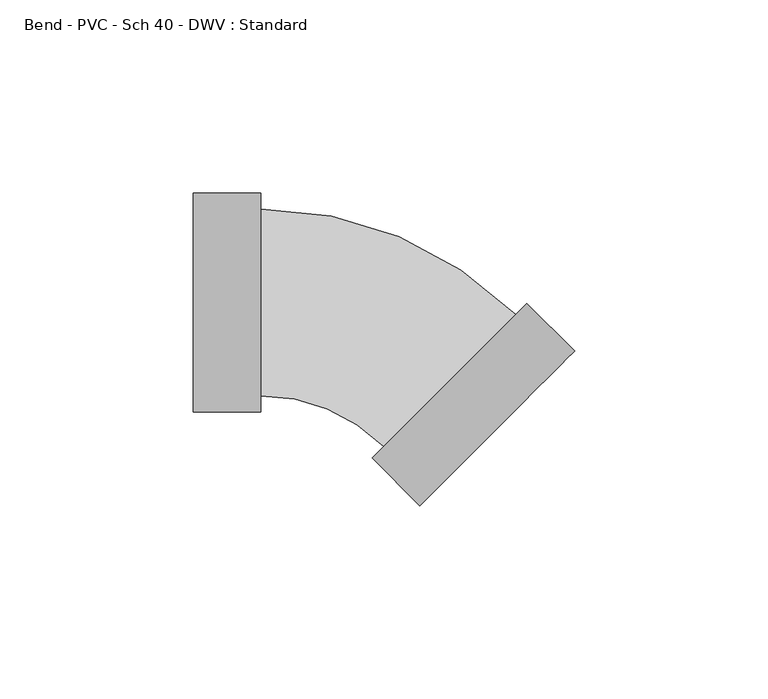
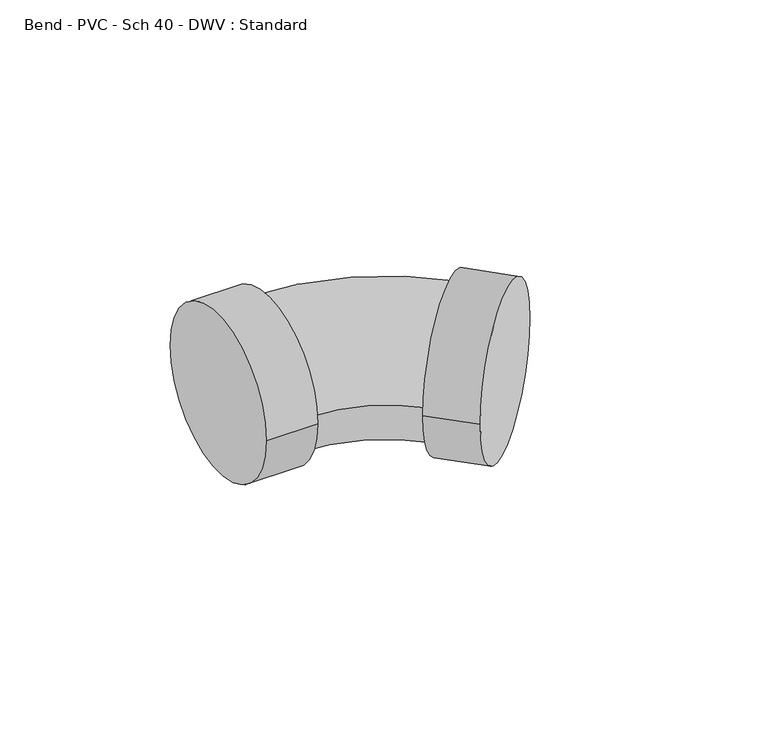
"""IFC4 building model written with IfcOpenShell, lengths in millimetres: pipe fitting geometry, Bend - PVC - Sch 40 - DWV : Standard."""

from ifc_helpers import new_model, si_unit, point, frame, origin, place, context, project, spatial, circle_curve, ellipse_curve, trimmed, source, transform, mapped, element, save
from ifc_brep_helpers import plane_surface, cylinder_surface, revolved_surface, advanced_brep


def bend_pvc_sch_40_dwv_standard_c28c2be1(model_context):
    return source(origin(), model_context, "Body", "AdvancedBrep", [
        advanced_brep(
        [(-46.0248, 28.2829, 0.0), (-46.0248, -28.2829, 0.0), (-28.575, 28.2829, 0.0), (-28.575, -28.2829, 0.0), (-28.575, 24.13, 0.0), (-28.575, -24.13, 0.0), (3.1430896, -37.2680629, 0.0), (37.2680629, -3.1430896, 0.0), (40.2046067, -0.2065459, 0.0), (0.2065459, -40.2046067, 0.0), (52.5434786, -12.5454178, 0.0), (12.5454178, -52.5434786, 0.0)],
        [
            (0, 1, circle_curve(frame((-46.0248, 0.0, 0.0), z_axis=(-1.0, 0.0, 0.0), x_axis=(0.0, -1.0, 0.0)), 28.2829)),
            (1, 0, circle_curve(frame((-46.0248, 0.0, 0.0), z_axis=(-1.0, 0.0, 0.0), x_axis=(0.0, -1.0, 0.0)), 28.2829)),
            (2, 3, circle_curve(frame((-28.575, 0.0, 0.0), z_axis=(1.0, 0.0, 0.0), x_axis=(0.0, -1.0, 0.0)), 28.2829)),
            (3, 2, circle_curve(frame((-28.575, 0.0, 0.0), z_axis=(1.0, 0.0, 0.0), x_axis=(0.0, -1.0, 0.0)), 28.2829)),
            (4, 5, circle_curve(frame((-28.575, 0.0, 0.0), z_axis=(-1.0, 0.0, 0.0), x_axis=(0.0, -1.0, 0.0)), 24.13)),
            (5, 4, circle_curve(frame((-28.575, 0.0, 0.0), z_axis=(-1.0, 0.0, 0.0), x_axis=(0.0, -1.0, 0.0)), 24.13)),
            (1, 3),
            (2, 0),
            (6, 7, circle_curve(frame((20.2055763, -20.2055763, 0.0), z_axis=(-0.7071067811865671, 0.7071067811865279, 0.0), x_axis=(-0.7071067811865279, -0.7071067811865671, 0.0)), 24.13)),
            (7, 4, circle_curve(frame((-28.575, -68.9861525, 0.0), z_axis=(0.0, 0.0, 1.0), x_axis=(0.0, 1.0, 0.0)), 93.1161525)),
            (5, 6, circle_curve(frame((-28.575, -68.9861525, 0.0), z_axis=(0.0, 0.0, -1.0), x_axis=(0.0, 1.0, 0.0)), 44.8561525)),
            (7, 6, circle_curve(frame((20.2055763, -20.2055763, 0.0), z_axis=(-0.7071067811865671, 0.7071067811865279, 0.0), x_axis=(-0.7071067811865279, -0.7071067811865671, 0.0)), 24.13)),
            (8, 9, circle_curve(frame((20.2055763, -20.2055763, 0.0), z_axis=(-0.7071067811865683, 0.7071067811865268, 0.0), x_axis=(-0.7071067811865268, -0.7071067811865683, 0.0)), 28.2829)),
            (9, 8, circle_curve(frame((20.2055763, -20.2055763, 0.0), z_axis=(-0.7071067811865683, 0.7071067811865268, 0.0), x_axis=(-0.7071067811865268, -0.7071067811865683, 0.0)), 28.2829)),
            (10, 11, circle_curve(frame((32.5444482, -32.5444482, 0.0), z_axis=(0.7071067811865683, -0.7071067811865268, 0.0), x_axis=(-0.7071067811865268, -0.7071067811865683, 0.0)), 28.2829)),
            (11, 10, circle_curve(frame((32.5444482, -32.5444482, 0.0), z_axis=(0.7071067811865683, -0.7071067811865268, 0.0), x_axis=(-0.7071067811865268, -0.7071067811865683, 0.0)), 28.2829)),
            (9, 11),
            (10, 8),
        ],
        [
            plane_surface(frame((-46.0248, 0.0, 0.0), z_axis=(-1.0, 0.0, 0.0), x_axis=(0.0, 0.0, 1.0))),
            plane_surface(frame((-28.575, 0.0, 0.0), z_axis=(1.0, 0.0, 0.0), x_axis=(0.0, 0.0, 1.0))),
            cylinder_surface(frame((-46.0248, 0.0, 0.0), z_axis=(-1.0, 0.0, 0.0), x_axis=(0.0, -1.0, 0.0)), 28.2829),
            revolved_surface(trimmed(ellipse_curve(frame((-28.575, 0.0, 0.0), z_axis=(1.0, 0.0, 0.0), x_axis=(0.0, -1.0, 0.0)), 24.13, 24.13), [point((-28.575, 24.13, 0.0))], [point((-28.575, -24.13, 0.0))], True, "CARTESIAN"), (-28.575, -68.9861525, 0.0), (0.0, 0.0, 1.0)),
            revolved_surface(trimmed(ellipse_curve(frame((-28.575, 0.0, 0.0), z_axis=(1.0, 0.0, 0.0), x_axis=(0.0, -1.0, 0.0)), 24.13, 24.13), [point((-28.575, -24.13, 0.0))], [point((-28.575, 24.13, 0.0))], True, "CARTESIAN"), (-28.575, -68.9861525, 0.0), (0.0, 0.0, 1.0)),
            plane_surface(frame((20.2055763, -20.2055763, 0.0), z_axis=(-0.7071067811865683, 0.7071067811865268, 0.0), x_axis=(0.0, 0.0, 1.0))),
            plane_surface(frame((32.5444482, -32.5444482, 0.0), z_axis=(0.7071067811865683, -0.7071067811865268, 0.0), x_axis=(0.0, 0.0, 1.0))),
            cylinder_surface(frame((20.2055763, -20.2055763, 0.0), z_axis=(-0.7071067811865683, 0.7071067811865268, 0.0), x_axis=(-0.7071067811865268, -0.7071067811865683, 0.0)), 28.2829),
        ],
        [
            (0, [[1, 2]]),
            (1, [[3, 4], [5, 6]]),
            (2, [[7, -3, 8, -2]]),
            (2, [[-8, -4, -7, -1]]),
            (3, [[9, 10, -6, 11]]),
            (4, [[-5, -10, 12, -11]]),
            (5, [[13, 14], [-12, -9]]),
            (6, [[15, 16]]),
            (7, [[17, -15, 18, -14]]),
            (7, [[-18, -16, -17, -13]]),
        ],
    ),
    ])


if __name__ == "__main__":
    model = new_model("IFC4")
    model_context = context("Model", 3, world=origin())
    ifc_project = project(units=[si_unit("LENGTHUNIT", "METRE", prefix="MILLI")], contexts=[model_context])
    site = spatial("IfcSite", under=ifc_project)
    building = spatial("IfcBuilding", under=site)
    placement = place(None, origin())
    bend_pvc_sch_40_dwv_standard_shape = bend_pvc_sch_40_dwv_standard_c28c2be1(model_context)
    element("IfcPipeFitting", 1, ObjectType="Bend - PVC - Sch 40 - DWV : Standard", at=placement, inside=building, context=model_context, shape_type="MappedRepresentation", body=[
        mapped(bend_pvc_sch_40_dwv_standard_shape, transform((0.0, 0.0, 0.0), x_axis=(1.0, 0.0, 0.0), y_axis=(0.0, 1.0, 0.0), z_axis=(0.0, 0.0, 1.0))),
    ])
    save(model, "model.ifc")
